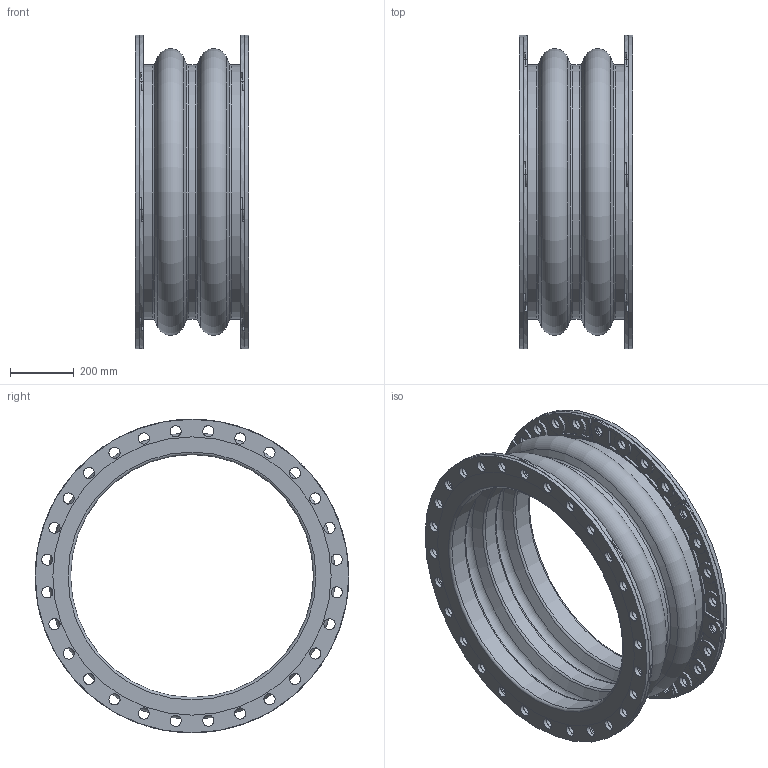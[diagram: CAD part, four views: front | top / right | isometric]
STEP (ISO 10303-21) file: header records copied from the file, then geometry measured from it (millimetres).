
FILE_DESCRIPTION(/* description */ (''),/* implementation_level */ '2;1');
FILE_NAME(/* name */ 'C:\001_Work\Designs\Mercer2014\702 30IDx14FF.stp',/* time_stamp */ '2016-04-10T14:37:17-04:00',/* author */ ('rramoutar'),/* organization */ ('Mason Industries Inc.'),/* preprocessor_version */ 'ST-DEVELOPER v15.6',/* originating_system */ 'Autodesk Inventor 2015',/* authorisation */ '');
FILE_SCHEMA (('CONFIG_CONTROL_DESIGN'));
Length unit declared in the file: inch
Products named in the file (1): 702 30IDx14FF
Bounding box: 355.6 x 984.25 x 984.25 mm (x, y, z)
Volume: 31756859.2 mm3; surface area: 4736739 mm2
Topology: 15 solids, 15 shells, 1058 faces, 2894 edges, 1926 vertices
Faces by surface type: cylinder 722, plane 286, torus 42, cone 8
Full cylindrical faces by diameter (mm): 34.925 x56, 34.99 x70, 762 x3, 798.512 x3, 984.25 x2
Entity records: 35818 total; most frequent: CARTESIAN_POINT 6619, DIRECTION 6278, ORIENTED_EDGE 5448, EDGE_CURVE 2724, AXIS2_PLACEMENT_3D 2579, VERTEX_POINT 1912, EDGE_LOOP 1528, CIRCLE 1520
